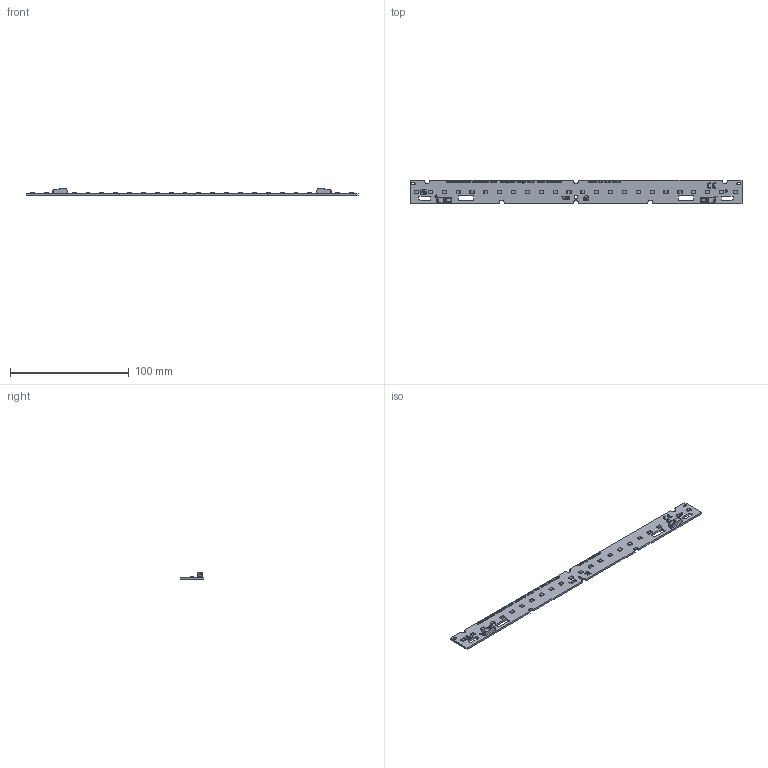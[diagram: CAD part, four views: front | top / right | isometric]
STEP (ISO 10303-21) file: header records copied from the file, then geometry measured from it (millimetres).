
FILE_DESCRIPTION(('Creo Elements/Direct Modeling STEP Export'),'2;1');
FILE_NAME('3D-Model_WU-M-735-TC.stp .stp','2024-11-27T13:32:42',(''),(''),'PTC Creo Elements/Direct Modeling STEP processor for AP214 (Solid Model)','PTC Creo Elements/Direct Modeling 19.0E 27-Jun-2016 (C) Parametric Technology GmbH','');
FILE_SCHEMA(('AUTOMOTIVE_DESIGN { 1 0 10303 214 1 1 1 1 }'));
Length unit declared in the file: millimetre
Products named in the file (364): _____STEP.PRT.9; _____STEP.PRT.8; _____STEP.PRT.7; _____STEP.PRT.6; _____STEP.PRT.5; _____STEP.PRT.4; _____STEP.PRT.3; _____STEP.PRT.23; _____STEP.PRT.22; _____STEP.PRT.21; _____STEP.PRT.20; _____STEP.PRT.2; _____STEP.PRT.19; _____STEP.PRT.18; _____STEP.PRT.17; _____STEP.PRT.16; _____STEP.PRT.15; _____STEP.PRT.14; _____STEP.PRT.13; _____STEP.PRT.12; _____STEP.PRT.11; _____STEP.PRT.10; _____STEP.PRT.1.1; _____STEP.PRT.1; _____STEP.PRT; _____-0_STEP.PRT.9; _____-0_STEP.PRT.8; _____-0_STEP.PRT.7; _____-0_STEP.PRT.6; _____-0_STEP.PRT.5; _____-0_STEP.PRT.4; _____-0_STEP.PRT.3; _____-0_STEP.PRT.23; _____-0_STEP.PRT.22; _____-0_STEP.PRT.21; _____-0_STEP.PRT.20; _____-0_STEP.PRT.2; _____-0_STEP.PRT.19; _____-0_STEP.PRT.18; _____-0_STEP.PRT.17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
Assembly tree (132 placements, depth 2):
  _____STEP.PRT.9
    _____STEP.PRT.9
  _____STEP.PRT.8
    _____STEP.PRT.8
  _____STEP.PRT.7
    _____STEP.PRT.7
  _____STEP.PRT.6
    _____STEP.PRT.6
  _____STEP.PRT.5
    _____STEP.PRT.5
Bounding box: 279 x 20 x 6.1 mm (x, y, z)
Volume: 8927.2 mm3; surface area: 14642.2 mm2
Topology: 206 solids, 310 shells, 9519 faces, 25994 edges, 17085 vertices
Faces by surface type: plane 7323, cylinder 2192, sphere 4
Entity records: 378818 total; most frequent: CARTESIAN_POINT 52348, ORIENTED_EDGE 52084, DIRECTION 48865, EDGE_CURVE 25990, VECTOR 21297, LINE 21297, VERTEX_POINT 17085, AXIS2_PLACEMENT_3D 13784
